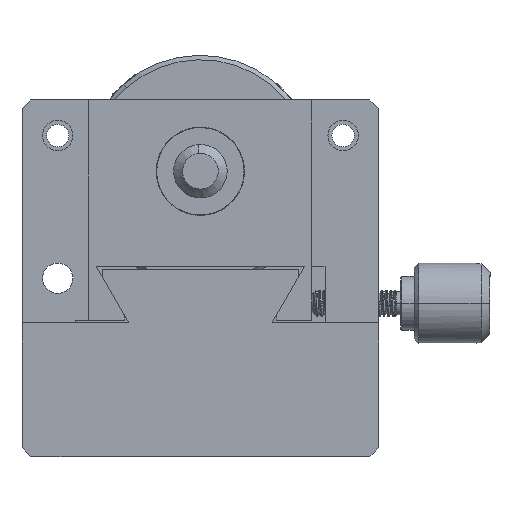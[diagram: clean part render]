
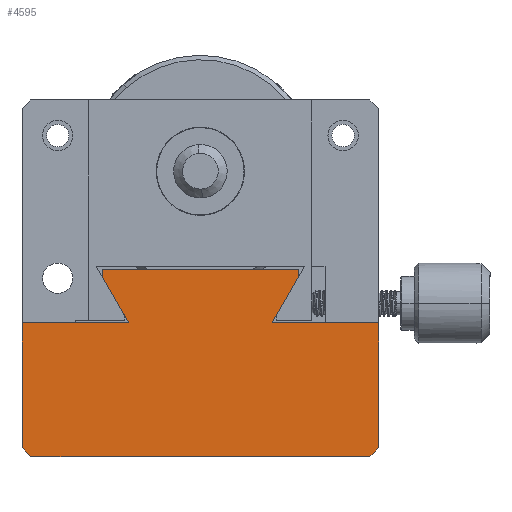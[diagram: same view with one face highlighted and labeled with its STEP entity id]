
A CAD part, front view. The second image highlights one B-rep face of the part: STEP entity #4595.
In plain terms, the highlighted planar face has unit normal (0, -1, 0).
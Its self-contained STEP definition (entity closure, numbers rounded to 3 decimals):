
#549 = CARTESIAN_POINT ( 'NONE',  ( 53.223, 50.88, 48.621 ) ) ;
#653 = CARTESIAN_POINT ( 'NONE',  ( 21.723, 50.88, 42.621 ) ) ;
#655 = DIRECTION ( 'NONE',  ( 0., 0., 1. ) ) ;
#664 = ORIENTED_EDGE ( 'NONE', *, *, #18996, .F. ) ;
#754 = LINE ( 'NONE', #10215, #18887 ) ;
#1825 = CARTESIAN_POINT ( 'NONE',  ( 60.723, 50.88, 27.621 ) ) ;
#2406 = VERTEX_POINT ( 'NONE', #9893 ) ;
#2477 = ORIENTED_EDGE ( 'NONE', *, *, #9022, .F. ) ;
#2503 = VERTEX_POINT ( 'NONE', #6596 ) ;
#3821 = DIRECTION ( 'NONE',  ( 0., 0., -1. ) ) ;
#3840 = AXIS2_PLACEMENT_3D ( 'NONE', #5272, #5170, #16720 ) ;
#3941 = LINE ( 'NONE', #549, #16732 ) ;
#3980 = VERTEX_POINT ( 'NONE', #15612 ) ;
#4079 = DIRECTION ( 'NONE',  ( 0., 0., 1. ) ) ;
#4167 = ORIENTED_EDGE ( 'NONE', *, *, #10742, .F. ) ;
#4345 = VECTOR ( 'NONE', #11764, 1000. ) ;
#4595 = ADVANCED_FACE ( 'NONE', ( #16416 ), #19926, .F. ) ;
#4879 = ORIENTED_EDGE ( 'NONE', *, *, #14435, .T. ) ;
#5170 = DIRECTION ( 'NONE',  ( 0., 1., 0. ) ) ;
#5272 = CARTESIAN_POINT ( 'NONE',  ( 41.723, 50.88, 27.621 ) ) ;
#5392 = CARTESIAN_POINT ( 'NONE',  ( 52.723, 50.88, 48.621 ) ) ;
#5515 = LINE ( 'NONE', #15063, #20635 ) ;
#5819 = EDGE_CURVE ( 'NONE', #3980, #20438, #5515, .T. ) ;
#5933 = EDGE_CURVE ( 'NONE', #2406, #10130, #7021, .T. ) ;
#6596 = CARTESIAN_POINT ( 'NONE',  ( 52.723, 50.88, 48.621 ) ) ;
#7021 = LINE ( 'NONE', #13688, #14526 ) ;
#7772 = VECTOR ( 'NONE', #4079, 1000. ) ;
#7922 = CARTESIAN_POINT ( 'NONE',  ( 22.723, 50.88, 27.621 ) ) ;
#8315 = CARTESIAN_POINT ( 'NONE',  ( 60.723, 50.88, 27.621 ) ) ;
#8415 = ORIENTED_EDGE ( 'NONE', *, *, #10594, .F. ) ;
#8463 = VECTOR ( 'NONE', #16056, 1000. ) ;
#8484 = LINE ( 'NONE', #5392, #4345 ) ;
#8488 = DIRECTION ( 'NONE',  ( 1., 0., 0. ) ) ;
#8688 = VECTOR ( 'NONE', #8488, 1000. ) ;
#8699 = DIRECTION ( 'NONE',  ( 0.707, 0., -0.707 ) ) ;
#8738 = ORIENTED_EDGE ( 'NONE', *, *, #20158, .F. ) ;
#8804 = CARTESIAN_POINT ( 'NONE',  ( 21.723, 50.88, 28.621 ) ) ;
#9022 = EDGE_CURVE ( 'NONE', #13056, #2503, #13932, .T. ) ;
#9440 = DIRECTION ( 'NONE',  ( 1., 0., 0. ) ) ;
#9599 = VERTEX_POINT ( 'NONE', #13913 ) ;
#9639 = LINE ( 'NONE', #17818, #18352 ) ;
#9687 = VECTOR ( 'NONE', #8699, 1000. ) ;
#9893 = CARTESIAN_POINT ( 'NONE',  ( 33.687, 50.88, 42.621 ) ) ;
#10064 = DIRECTION ( 'NONE',  ( -1., 0., 0. ) ) ;
#10130 = VERTEX_POINT ( 'NONE', #18165 ) ;
#10148 = EDGE_LOOP ( 'NONE', ( #16877, #4879, #664, #10973, #11284, #12813, #13263, #4167, #2477, #8738, #11427, #8415 ) ) ;
#10179 = CARTESIAN_POINT ( 'NONE',  ( 49.759, 50.88, 42.621 ) ) ;
#10215 = CARTESIAN_POINT ( 'NONE',  ( 21.723, 50.88, 27.621 ) ) ;
#10297 = DIRECTION ( 'NONE',  ( -0.5, 0., 0.866 ) ) ;
#10594 = EDGE_CURVE ( 'NONE', #17148, #2406, #9639, .T. ) ;
#10638 = DIRECTION ( 'NONE',  ( 1., 0., 0. ) ) ;
#10742 = EDGE_CURVE ( 'NONE', #2503, #16000, #8484, .T. ) ;
#10973 = ORIENTED_EDGE ( 'NONE', *, *, #20490, .T. ) ;
#11284 = ORIENTED_EDGE ( 'NONE', *, *, #5819, .F. ) ;
#11427 = ORIENTED_EDGE ( 'NONE', *, *, #5933, .F. ) ;
#11603 = LINE ( 'NONE', #1825, #8463 ) ;
#11764 = DIRECTION ( 'NONE',  ( 0., 0., -1. ) ) ;
#11840 = LINE ( 'NONE', #18621, #7772 ) ;
#11906 = CARTESIAN_POINT ( 'NONE',  ( 21.723, 50.88, 28.621 ) ) ;
#12245 = EDGE_CURVE ( 'NONE', #16000, #9599, #3941, .T. ) ;
#12813 = ORIENTED_EDGE ( 'NONE', *, *, #14374, .F. ) ;
#13056 = VERTEX_POINT ( 'NONE', #17753 ) ;
#13141 = LINE ( 'NONE', #18037, #20278 ) ;
#13189 = EDGE_CURVE ( 'NONE', #13202, #17148, #754, .T. ) ;
#13202 = VERTEX_POINT ( 'NONE', #11906 ) ;
#13263 = ORIENTED_EDGE ( 'NONE', *, *, #12245, .F. ) ;
#13358 = LINE ( 'NONE', #8804, #9687 ) ;
#13584 = CARTESIAN_POINT ( 'NONE',  ( 52.723, 50.88, 47.755 ) ) ;
#13688 = CARTESIAN_POINT ( 'NONE',  ( 33.687, 50.88, 42.621 ) ) ;
#13913 = CARTESIAN_POINT ( 'NONE',  ( 49.759, 50.88, 42.621 ) ) ;
#13932 = LINE ( 'NONE', #20311, #17098 ) ;
#14374 = EDGE_CURVE ( 'NONE', #9599, #3980, #19744, .T. ) ;
#14435 = EDGE_CURVE ( 'NONE', #13202, #19743, #13358, .T. ) ;
#14526 = VECTOR ( 'NONE', #10297, 1000. ) ;
#15063 = CARTESIAN_POINT ( 'NONE',  ( 61.723, 50.88, 42.621 ) ) ;
#15299 = DIRECTION ( 'NONE',  ( -0.5, 0., -0.866 ) ) ;
#15612 = CARTESIAN_POINT ( 'NONE',  ( 61.723, 50.88, 42.621 ) ) ;
#16000 = VERTEX_POINT ( 'NONE', #13584 ) ;
#16056 = DIRECTION ( 'NONE',  ( 0.707, 0., 0.707 ) ) ;
#16416 = FACE_OUTER_BOUND ( 'NONE', #10148, .T. ) ;
#16720 = DIRECTION ( 'NONE',  ( 0., 0., -1. ) ) ;
#16732 = VECTOR ( 'NONE', #15299, 1000. ) ;
#16877 = ORIENTED_EDGE ( 'NONE', *, *, #13189, .F. ) ;
#17098 = VECTOR ( 'NONE', #10638, 1000. ) ;
#17148 = VERTEX_POINT ( 'NONE', #653 ) ;
#17753 = CARTESIAN_POINT ( 'NONE',  ( 30.723, 50.88, 48.621 ) ) ;
#17818 = CARTESIAN_POINT ( 'NONE',  ( 21.723, 50.88, 42.621 ) ) ;
#18037 = CARTESIAN_POINT ( 'NONE',  ( 61.723, 50.88, 27.621 ) ) ;
#18165 = CARTESIAN_POINT ( 'NONE',  ( 30.723, 50.88, 47.755 ) ) ;
#18352 = VECTOR ( 'NONE', #9440, 1000. ) ;
#18442 = VERTEX_POINT ( 'NONE', #8315 ) ;
#18621 = CARTESIAN_POINT ( 'NONE',  ( 30.723, 50.88, 48.621 ) ) ;
#18887 = VECTOR ( 'NONE', #655, 1000. ) ;
#18996 = EDGE_CURVE ( 'NONE', #18442, #19743, #13141, .T. ) ;
#19045 = CARTESIAN_POINT ( 'NONE',  ( 61.723, 50.88, 28.621 ) ) ;
#19743 = VERTEX_POINT ( 'NONE', #7922 ) ;
#19744 = LINE ( 'NONE', #10179, #8688 ) ;
#19926 = PLANE ( 'NONE',  #3840 ) ;
#20158 = EDGE_CURVE ( 'NONE', #10130, #13056, #11840, .T. ) ;
#20278 = VECTOR ( 'NONE', #10064, 1000. ) ;
#20311 = CARTESIAN_POINT ( 'NONE',  ( 30.223, 50.88, 48.621 ) ) ;
#20438 = VERTEX_POINT ( 'NONE', #19045 ) ;
#20490 = EDGE_CURVE ( 'NONE', #18442, #20438, #11603, .T. ) ;
#20635 = VECTOR ( 'NONE', #3821, 1000. ) ;
